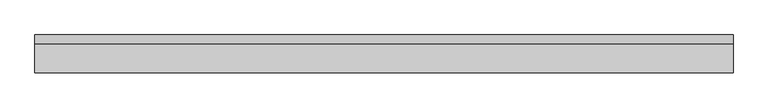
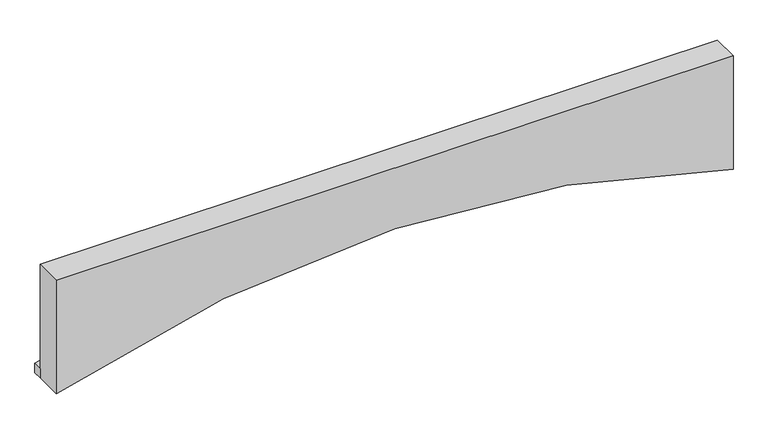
"""IFC4 building model written with IfcOpenShell, lengths in millimetres: proxy geometry, 走廊板 : h=300mm."""

import ifcopenshell
import ifcopenshell.guid

model = None  # the IFC model being written
_history = None  # IfcOwnerHistory: only IFC2X3 demands one
_inside = {}  # id of a spatial element -> (the spatial element, [elements in it])
_under = {}  # id of a project, library or spatial element -> (it, [spatial elements below it])
_declared = {}  # id of a project -> (the project, [libraries it declares])
_typed = {}  # id of a type object -> (the type object, [elements of that type])
_made_of = {}  # id of a material, layer set ... -> (it, [elements and type objects made of it])


def new_model(schema):
    """Start an empty IFC model of exactly this schema.

    Asked for "IFC4X3", IfcOpenShell would pick the latest addendum, in which some entities
    have other attributes; the version numbers below select the first issue.
    IFC2X3 requires an IfcOwnerHistory on every rooted entity: one is made here for all.
    """
    global model, _history
    if schema == "IFC4X3":
        model = ifcopenshell.file(schema_version=(4, 3, 0, 0))
    else:
        model = ifcopenshell.file(schema=schema)
    _inside.clear()
    _under.clear()
    _declared.clear()
    _typed.clear()
    _made_of.clear()
    _history = None
    if model.schema == "IFC2X3":
        org = make("IfcOrganization", Name="unknown")
        user = make(
            "IfcPersonAndOrganization",
            ThePerson=make("IfcPerson", FamilyName="unknown"),
            TheOrganization=org,
        )
        app = make(
            "IfcApplication",
            ApplicationDeveloper=org,
            Version="unknown",
            ApplicationFullName="unknown",
            ApplicationIdentifier="unknown",
        )
        _history = make(
            "IfcOwnerHistory",
            OwningUser=user,
            OwningApplication=app,
            ChangeAction="ADDED",
            CreationDate=0,
        )
    return model


def make(cls, **values):
    """One entity of the class cls with the attributes given. An attribute that is None is left unset."""
    return model.create_entity(
        cls, **{name: value for name, value in values.items() if value is not None}
    )


def rooted(cls, **values):
    """An entity with a GlobalId (a new one), such as an element, a storey or a relation."""
    return make(cls, GlobalId=ifcopenshell.guid.new(), OwnerHistory=_history, **values)


def si_unit(unit_type, name, prefix=None):
    """IfcSIUnit, for example si_unit("LENGTHUNIT", "METRE", prefix="MILLI")."""
    return make("IfcSIUnit", UnitType=unit_type, Prefix=prefix, Name=name)


def assignment(units):
    """IfcUnitAssignment: the units of a project."""
    return None if units is None else make("IfcUnitAssignment", Units=units)


def point(xyz):
    """IfcCartesianPoint."""
    return None if xyz is None else make("IfcCartesianPoint", Coordinates=xyz)


def direction(xyz):
    """IfcDirection."""
    return None if xyz is None else make("IfcDirection", DirectionRatios=xyz)


def frame(location, z_axis=None, x_axis=None):
    """IfcAxis2Placement3D, a coordinate frame: its origin and axes. An axis left out is left unset."""
    return make(
        "IfcAxis2Placement3D",
        Location=point(location),
        Axis=direction(z_axis),
        RefDirection=direction(x_axis),
    )


def frame_2d(location, x_axis=None):
    """IfcAxis2Placement2D, a coordinate frame in the plane: its origin and x axis."""
    return make(
        "IfcAxis2Placement2D", Location=point(location), RefDirection=direction(x_axis)
    )


def origin():
    """The frame at (0, 0, 0) with its axes left unset."""
    return frame((0.0, 0.0, 0.0))


def place(relative_to, where):
    """IfcLocalPlacement: puts the frame where relative to a parent placement (None: the world)."""
    return make(
        "IfcLocalPlacement", PlacementRelTo=relative_to, RelativePlacement=where
    )


def context(
    kind, dimensions, precision=None, world=None, true_north=None, identifier=None
):
    """IfcGeometricRepresentationContext, for example the 3D "Model" context."""
    return make(
        "IfcGeometricRepresentationContext",
        ContextIdentifier=identifier,
        ContextType=kind,
        CoordinateSpaceDimension=dimensions,
        Precision=precision,
        WorldCoordinateSystem=world,
        TrueNorth=true_north,
    )


def project(units=None, contexts=None):
    """IfcProject with its units and contexts."""
    return rooted(
        "IfcProject",
        Name="project",
        RepresentationContexts=contexts,
        UnitsInContext=assignment(units),
    )


def spatial(cls, under=None, at=None, **own):
    """A site, building, storey or space (cls), placed at a placement, below another one or the project."""
    s = rooted(cls, ObjectPlacement=at, **own)
    if under is not None:
        _under.setdefault(under.id(), (under, []))[1].append(s)
    return s


def polyline(points):
    """IfcPolyline through the points."""
    return make("IfcPolyline", Points=[point(p) for p in points])


def circle_curve(where, radius):
    """IfcCircle in the frame where."""
    return make("IfcCircle", Position=where, Radius=radius)


def trimmed(basis, trim1, trim2, sense, master):
    """IfcTrimmedCurve: the piece of a basis curve between two trims."""
    return make(
        "IfcTrimmedCurve",
        BasisCurve=basis,
        Trim1=trim1,
        Trim2=trim2,
        SenseAgreement=sense,
        MasterRepresentation=master,
    )


def segment(curve, same_sense, transition):
    """IfcCompositeCurveSegment."""
    return make(
        "IfcCompositeCurveSegment",
        Transition=transition,
        SameSense=same_sense,
        ParentCurve=curve,
    )


def composite_curve(segments, self_intersect=None):
    """IfcCompositeCurve: segments joined end to end."""
    return make("IfcCompositeCurve", Segments=segments, SelfIntersect=self_intersect)


def outline(outer, holes=None, kind="AREA"):
    """IfcArbitraryClosedProfileDef: a profile drawn as a closed curve; with holes, ...WithVoids."""
    if holes is None:
        return make("IfcArbitraryClosedProfileDef", ProfileType=kind, OuterCurve=outer)
    return make(
        "IfcArbitraryProfileDefWithVoids",
        ProfileType=kind,
        OuterCurve=outer,
        InnerCurves=holes,
    )


def extrude(swept, where, along, depth):
    """IfcExtrudedAreaSolid: the profile swept, set in the frame where, extruded along a direction by depth."""
    return make(
        "IfcExtrudedAreaSolid",
        SweptArea=swept,
        Position=where,
        ExtrudedDirection=direction(along),
        Depth=depth,
    )


def shape(context_of_items, identifier, shape_type, items):
    """IfcShapeRepresentation: the items that make up one representation, for example the "Body"."""
    return make(
        "IfcShapeRepresentation",
        ContextOfItems=context_of_items,
        RepresentationIdentifier=identifier,
        RepresentationType=shape_type,
        Items=items,
    )


def source(mapping_origin, context_of_items, identifier, shape_type, items):
    """IfcRepresentationMap: a shape defined once, which mapped items show again and again."""
    return make(
        "IfcRepresentationMap",
        MappingOrigin=mapping_origin,
        MappedRepresentation=shape(context_of_items, identifier, shape_type, items),
    )


def transform(
    local_origin,
    x_axis=None,
    y_axis=None,
    z_axis=None,
    scale=None,
    scale2=None,
    scale3=None,
    uniform=True,
):
    """IfcCartesianTransformationOperator3D, or its non-uniform kind. x_axis, y_axis, z_axis: its Axis1, 2, 3."""
    if uniform:
        return make(
            "IfcCartesianTransformationOperator3D",
            Axis1=direction(x_axis),
            Axis2=direction(y_axis),
            LocalOrigin=point(local_origin),
            Scale=scale,
            Axis3=direction(z_axis),
        )
    return make(
        "IfcCartesianTransformationOperator3DnonUniform",
        Axis1=direction(x_axis),
        Axis2=direction(y_axis),
        LocalOrigin=point(local_origin),
        Scale=scale,
        Axis3=direction(z_axis),
        Scale2=scale2,
        Scale3=scale3,
    )


def mapped(mapping_source, mapping_target):
    """IfcMappedItem: shows the shape of a source again, moved by a transform."""
    return make(
        "IfcMappedItem", MappingSource=mapping_source, MappingTarget=mapping_target
    )


def made_of(thing, what):
    """Note that an element or type object is made of a material, layer set ...; save() writes the relation."""
    if what is not None:
        _made_of.setdefault(what.id(), (what, []))[1].append(thing)
    return thing


def element(
    cls,
    number,
    at=None,
    inside=None,
    cuts=None,
    type_object=None,
    material=None,
    context=None,
    identifier="Body",
    shape_type=None,
    held_by="IfcProductDefinitionShape",
    body=None,
    shapes=None,
    **own,
):
    """One element of the class cls, such as IfcWall. Its Tag is "e" and its number.

    at: its placement. inside: the storey or other place that contains it. cuts: it is an
    opening in that element (IfcRelVoidsElement). A single representation is given by context,
    identifier, shape_type and body (its items); several are given by shapes. held_by: the class
    of the entity that holds the representations. save() writes the other relations.
    """
    e = rooted(cls, Tag="e%d" % number, ObjectPlacement=at, **own)
    if body is not None:
        shapes = [shape(context, identifier, shape_type, body)]
    if shapes is not None:
        e.Representation = make(held_by, Representations=shapes)
    if inside is not None:
        _inside.setdefault(inside.id(), (inside, []))[1].append(e)
    if cuts is not None:
        rooted(
            "IfcRelVoidsElement", RelatingBuildingElement=cuts, RelatedOpeningElement=e
        )
    if type_object is not None:
        _typed.setdefault(type_object.id(), (type_object, []))[1].append(e)
    return made_of(e, material)


def aggregate(whole, parts):
    """IfcRelAggregates: a whole, such as a stair, and the parts it consists of."""
    return rooted("IfcRelAggregates", RelatingObject=whole, RelatedObjects=parts)


def save(model, path):
    """Write the relations noted so far, then the file.

    IfcRelAggregates (storeys below a building ...), IfcRelContainedInSpatialStructure (elements
    in a storey), IfcRelDefinesByType, IfcRelAssociatesMaterial and IfcRelDeclares: one each for
    every whole, place, type object, material and project.
    """
    for whole, parts in _under.values():
        aggregate(whole, parts)
    for where, things in _inside.values():
        rooted(
            "IfcRelContainedInSpatialStructure",
            RelatedElements=things,
            RelatingStructure=where,
        )
    for kind, things in _typed.values():
        rooted("IfcRelDefinesByType", RelatedObjects=things, RelatingType=kind)
    for what, things in _made_of.values():
        rooted("IfcRelAssociatesMaterial", RelatedObjects=things, RelatingMaterial=what)
    for by, libraries in _declared.values():
        rooted("IfcRelDeclares", RelatingContext=by, RelatedDefinitions=libraries)
    model.write(path)


def generic_models_00445dfb(model_context):
    return source(origin(), model_context, "Body", "SweptSolid", [
        extrude(outline(composite_curve([segment(polyline([(-1311.4739289, 7400.0), (-1205.9106789, 7400.0)]), True, "CONTINUOUS"), segment(trimmed(circle_curve(frame_2d((-12200.0, 3700.0)), 11600.0), [point((-1205.9106789, 7400.0))], [point((-1205.9106789, 0.0))], False, "CARTESIAN"), True, "CONTINUOUS"), segment(polyline([(-1205.9106789, 0.0), (-1311.4739289, 0.0)]), True, "CONTINUOUS"), segment(trimmed(circle_curve(frame_2d((-12200.0, 3700.0)), 11500.0), [point((-1311.4739289, 0.0))], [point((-1311.4739289, 7400.0))], True, "CARTESIAN"), True, "CONTINUOUS")], self_intersect=False)), frame((0.0, 150.0, 0.0), z_axis=(0.0, 1.0, 0.0), x_axis=(0.0, 0.0, 1.0)), (0.0, 0.0, 1.0), 100.0),
        extrude(outline(composite_curve([segment(polyline([(0.0, 7400.0), (0.0, 0.0), (-1311.4739289, 0.0)]), True, "CONTINUOUS"), segment(trimmed(circle_curve(frame_2d((-12200.0, 3700.0)), 11500.0), [point((-1311.4739289, 0.0))], [point((-1311.4739289, 7400.0))], True, "CARTESIAN"), True, "CONTINUOUS"), segment(polyline([(-1311.4739289, 7400.0), (0.0, 7400.0)]), True, "CONTINUOUS")], self_intersect=False)), frame((0.0, -150.0, 0.0), z_axis=(0.0, 1.0, 0.0), x_axis=(0.0, 0.0, 1.0)), (0.0, 0.0, 1.0), 300.0),
    ])


if __name__ == "__main__":
    model = new_model("IFC4")
    model_context = context("Model", 3, world=origin())
    ifc_project = project(units=[si_unit("LENGTHUNIT", "METRE", prefix="MILLI")], contexts=[model_context])
    site = spatial("IfcSite", under=ifc_project)
    building = spatial("IfcBuilding", under=site)
    placement = place(None, origin())
    generic_models_shape = generic_models_00445dfb(model_context)
    element("IfcBuildingElementProxy", 1, Name="走廊板 : h=300mm", ObjectType="走廊板 : h=300mm", at=placement, inside=building, context=model_context, shape_type="MappedRepresentation", body=[
        mapped(generic_models_shape, transform((0.0, 0.0, 0.0), x_axis=(1.0, 0.0, 0.0), y_axis=(0.0, 1.0, 0.0), z_axis=(0.0, 0.0, 1.0))),
    ])
    save(model, "model.ifc")
